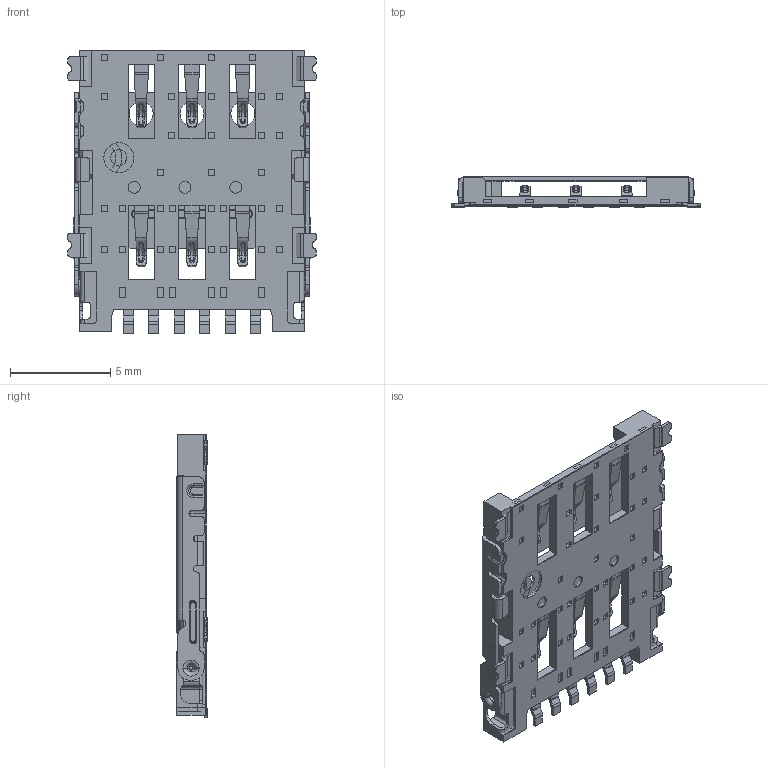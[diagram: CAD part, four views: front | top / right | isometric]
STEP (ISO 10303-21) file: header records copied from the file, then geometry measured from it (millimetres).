
FILE_DESCRIPTION((''),'2;1');
FILE_NAME('1050626AR101_NANO_0001_ASM','2023-07-25T14:09:01',('Administrator'),(''),'CREO PARAMETRIC BY PTC INC, 2020053','CREO PARAMETRIC BY PTC INC, 2020053','');
FILE_SCHEMA(('CONFIG_CONTROL_DESIGN'));
Products named in the file (12): MANIFOLD_SOLID_BREP__4770; MANIFOLD_SOLID_BREP__9366; MANIFOLD_SOLID_BREP__13945; MANIFOLD_SOLID_BREP__18505; MANIFOLD_SOLID_BREP__21188; MANIFOLD_SOLID_BREP__25842; MANIFOLD_SOLID_BREP__30417; MANIFOLD_SOLID_BREP__33502; MANIFOLD_SOLID_BREP__47090_1; MANIFOLD_SOLID_BREP__47090_2; NANO-SIM_1050626AR001_ASM; 1050626AR101_NANO_0001_ASM
Assembly tree (11 placements, depth 3):
  1050626AR101_NANO_0001_ASM
    NANO-SIM_1050626AR001_ASM
      MANIFOLD_SOLID_BREP__4770
      MANIFOLD_SOLID_BREP__9366
      MANIFOLD_SOLID_BREP__13945
      MANIFOLD_SOLID_BREP__18505
      MANIFOLD_SOLID_BREP__21188
      MANIFOLD_SOLID_BREP__25842
      MANIFOLD_SOLID_BREP__30417
      MANIFOLD_SOLID_BREP__33502
      MANIFOLD_SOLID_BREP__47090_1
      MANIFOLD_SOLID_BREP__47090_2
Bounding box: 12.4 x 1.5 x 14.11 mm (x, y, z)
Volume: 15.6 mm3; surface area: 963.6 mm2
Topology: 9 solids, 16 shells, 2092 faces, 5783 edges, 3668 vertices
Faces by surface type: plane 1134, cylinder 633, torus 137, bspline 108, sphere 48, extrusion 16, cone 16
Entity records: 73500 total; most frequent: CARTESIAN_POINT 19579, ORIENTED_EDGE 11390, DIRECTION 10975, EDGE_CURVE 5735, VECTOR 3947, LINE 3931, VERTEX_POINT 3669, AXIS2_PLACEMENT_3D 3514
